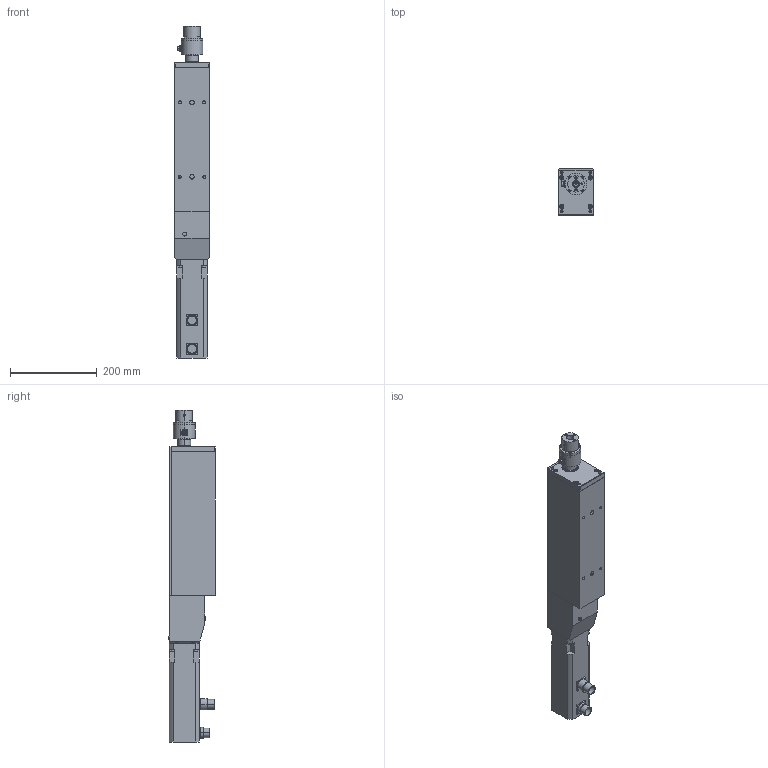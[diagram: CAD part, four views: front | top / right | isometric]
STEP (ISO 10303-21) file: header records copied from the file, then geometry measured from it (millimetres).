
FILE_DESCRIPTION (( 'STEP AP203' ), '1' );
FILE_NAME ('PR5ID040-020-025N.STEP', '2019-08-02T06:32:22', ( '' ), ( '' ), 'SwSTEP 2.0', 'SolidWorks 2016', '' );
FILE_SCHEMA (( 'CONFIG_CONTROL_DESIGN' ));
Length unit declared in the file: millimetre
Products named in the file (1): PR5ID040-020-025N
Bounding box: 80 x 108 x 766.3 mm (x, y, z)
Volume: 3615935.5 mm3; surface area: 531655.3 mm2
Topology: 31 solids, 31 shells, 1151 faces, 2679 edges, 1579 vertices
Faces by surface type: plane 453, cylinder 422, cone 218, torus 58
Entity records: 32628 total; most frequent: CARTESIAN_POINT 6146, DIRECTION 5919, ORIENTED_EDGE 5058, EDGE_CURVE 2529, AXIS2_PLACEMENT_3D 2286, VERTEX_POINT 1579, EDGE_LOOP 1400, VECTOR 1347
